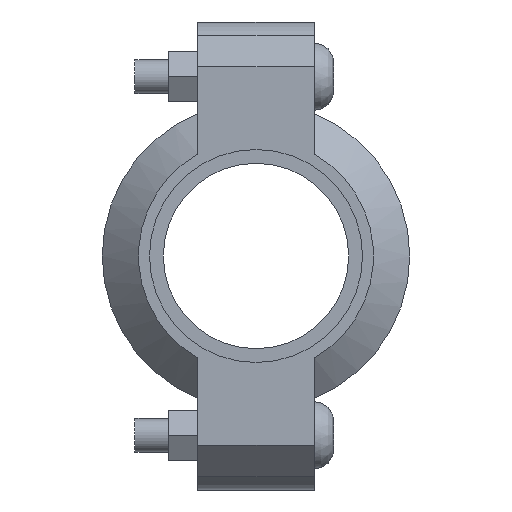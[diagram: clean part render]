
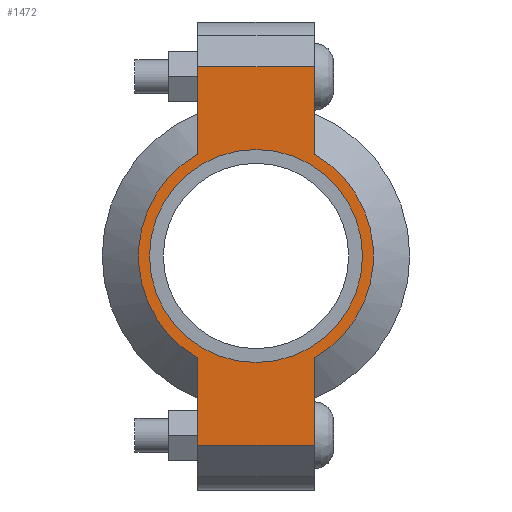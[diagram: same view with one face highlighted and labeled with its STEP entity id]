
A CAD part, left-side view. The second image highlights one B-rep face of the part: STEP entity #1472.
In plain terms, the highlighted planar face has unit normal (-1, 0, 0) as drawn and (0, 0, 1) by its records, which use the part's own axes.
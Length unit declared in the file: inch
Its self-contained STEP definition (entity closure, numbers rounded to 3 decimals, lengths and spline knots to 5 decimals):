
#152=LINE('',#2553,#243);
#160=LINE('',#2589,#251);
#167=LINE('',#2610,#258);
#176=LINE('',#2642,#267);
#177=LINE('',#2646,#268);
#178=LINE('',#2648,#269);
#243=VECTOR('',#2067,0.3937);
#251=VECTOR('',#2083,0.3937);
#258=VECTOR('',#2102,0.3937);
#267=VECTOR('',#2127,0.3937);
#268=VECTOR('',#2132,0.3937);
#269=VECTOR('',#2133,0.3937);
#321=FACE_BOUND('',#481,.T.);
#385=FACE_OUTER_BOUND('',#480,.T.);
#480=EDGE_LOOP('',(#1207,#1208,#1209,#1210,#1211,#1212,#1213,#1214));
#481=EDGE_LOOP('',(#1215));
#578=CIRCLE('',#1733,1.31);
#579=CIRCLE('',#1734,1.31);
#580=CIRCLE('',#1735,1.1875);
#683=VERTEX_POINT('',#2550);
#684=VERTEX_POINT('',#2552);
#695=VERTEX_POINT('',#2584);
#696=VERTEX_POINT('',#2588);
#703=VERTEX_POINT('',#2607);
#704=VERTEX_POINT('',#2609);
#714=VERTEX_POINT('',#2645);
#715=VERTEX_POINT('',#2647);
#716=VERTEX_POINT('',#2650);
#847=EDGE_CURVE('',#684,#683,#152,.T.);
#861=EDGE_CURVE('',#696,#695,#160,.T.);
#871=EDGE_CURVE('',#704,#703,#167,.T.);
#886=EDGE_CURVE('',#696,#683,#176,.T.);
#887=EDGE_CURVE('',#695,#704,#578,.T.);
#888=EDGE_CURVE('',#714,#703,#177,.T.);
#889=EDGE_CURVE('',#714,#715,#178,.T.);
#890=EDGE_CURVE('',#715,#684,#579,.T.);
#891=EDGE_CURVE('',#716,#716,#580,.T.);
#1207=ORIENTED_EDGE('',*,*,#886,.F.);
#1208=ORIENTED_EDGE('',*,*,#861,.T.);
#1209=ORIENTED_EDGE('',*,*,#887,.T.);
#1210=ORIENTED_EDGE('',*,*,#871,.T.);
#1211=ORIENTED_EDGE('',*,*,#888,.F.);
#1212=ORIENTED_EDGE('',*,*,#889,.T.);
#1213=ORIENTED_EDGE('',*,*,#890,.T.);
#1214=ORIENTED_EDGE('',*,*,#847,.T.);
#1215=ORIENTED_EDGE('',*,*,#891,.T.);
#1326=PLANE('',#1732);
#1472=ADVANCED_FACE('',(#385,#321),#1326,.T.);
#1732=AXIS2_PLACEMENT_3D('',#2643,#2128,#2129);
#1733=AXIS2_PLACEMENT_3D('',#2644,#2130,#2131);
#1734=AXIS2_PLACEMENT_3D('',#2649,#2134,#2135);
#1735=AXIS2_PLACEMENT_3D('',#2651,#2136,#2137);
#2067=DIRECTION('',(1.,0.,0.));
#2083=DIRECTION('',(-1.,0.,0.));
#2102=DIRECTION('',(-1.,0.,0.));
#2127=DIRECTION('',(0.,-1.,0.));
#2128=DIRECTION('center_axis',(0.,0.,1.));
#2129=DIRECTION('ref_axis',(-1.,0.,0.));
#2130=DIRECTION('center_axis',(0.,0.,1.));
#2131=DIRECTION('ref_axis',(1.,0.,0.));
#2132=DIRECTION('',(0.,1.,0.));
#2133=DIRECTION('',(1.,0.,0.));
#2134=DIRECTION('center_axis',(0.,0.,1.));
#2135=DIRECTION('ref_axis',(1.,0.,0.));
#2136=DIRECTION('center_axis',(0.,0.,-1.));
#2137=DIRECTION('ref_axis',(1.,0.,0.));
#2550=CARTESIAN_POINT('',(2.11,-0.65,0.94));
#2552=CARTESIAN_POINT('',(1.13737,-0.65,0.94));
#2553=CARTESIAN_POINT('',(2.61,-0.65,0.94));
#2584=CARTESIAN_POINT('',(1.13737,0.65,0.94));
#2588=CARTESIAN_POINT('',(2.11,0.65,0.94));
#2589=CARTESIAN_POINT('',(-2.61,0.65,0.94));
#2607=CARTESIAN_POINT('',(-2.11,0.65,0.94));
#2609=CARTESIAN_POINT('',(-1.13737,0.65,0.94));
#2610=CARTESIAN_POINT('',(-2.61,0.65,0.94));
#2642=CARTESIAN_POINT('',(2.11,-0.325,0.94));
#2643=CARTESIAN_POINT('Origin',(0.,0.,
0.94));
#2644=CARTESIAN_POINT('Origin',(0.,0.,0.94));
#2645=CARTESIAN_POINT('',(-2.11,-0.65,0.94));
#2646=CARTESIAN_POINT('',(-2.11,0.325,0.94));
#2647=CARTESIAN_POINT('',(-1.13737,-0.65,0.94));
#2648=CARTESIAN_POINT('',(2.61,-0.65,0.94));
#2649=CARTESIAN_POINT('Origin',(0.,0.,0.94));
#2650=CARTESIAN_POINT('',(-1.1875,0.,0.94));
#2651=CARTESIAN_POINT('Origin',(0.,0.,0.94));
